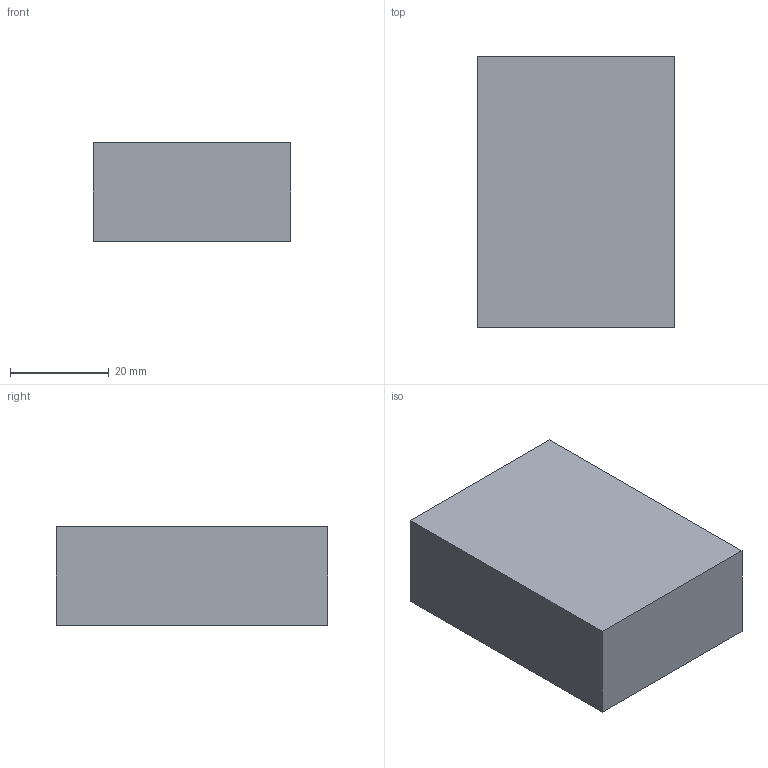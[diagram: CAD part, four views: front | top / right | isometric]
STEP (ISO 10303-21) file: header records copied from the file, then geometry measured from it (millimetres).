
FILE_DESCRIPTION(/* description */ (''),/* implementation_level */ '2;1');
FILE_NAME(/* name */ 'X-8D0A~1',/* time_stamp */ '2014-02-14T19:44:30+01:00',/* author */ (''),/* organization */ (''),/* preprocessor_version */ 'ST-DEVELOPER v14',/* originating_system */ '',/* authorisation */ '');
FILE_SCHEMA (('AUTOMOTIVE_DESIGN'));
Length unit declared in the file: millimetre
Products named in the file (1): Document
Bounding box: 40 x 55 x 20 mm (x, y, z)
Volume: 44000 mm3; surface area: 8200 mm2
Topology: 1 solids, 1 shells, 6 faces, 12 edges, 8 vertices
Faces by surface type: plane 6
Entity records: 298 total; most frequent: CARTESIAN_POINT 88, B_SPLINE_CURVE_WITH_KNOTS 36, ORIENTED_EDGE 24, PCURVE 24, DEFINITIONAL_REPRESENTATION 24, SURFACE_CURVE 12, EDGE_CURVE 12, DIRECTION 10
